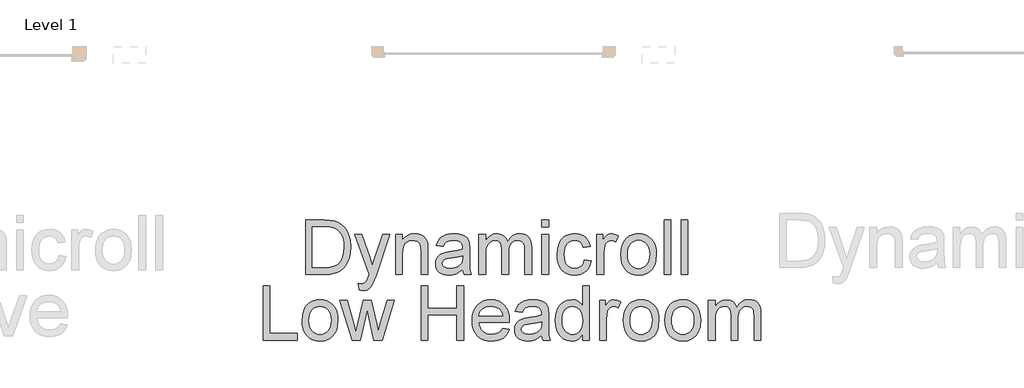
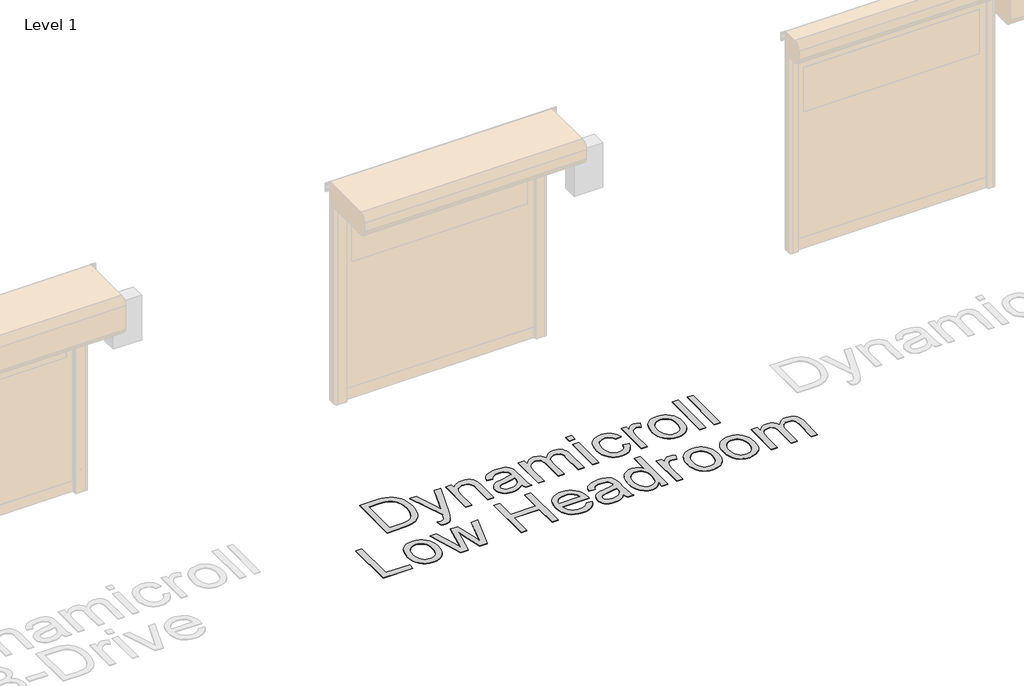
# One storey, part 9 of 17: 1 proxy.
"""IFC4 building model written with IfcOpenShell, lengths in millimetres."""

import ifcopenshell
import ifcopenshell.guid

model = None  # the IFC model being written
_history = None  # IfcOwnerHistory: only IFC2X3 demands one
_inside = {}  # id of a spatial element -> (the spatial element, [elements in it])
_under = {}  # id of a project, library or spatial element -> (it, [spatial elements below it])
_declared = {}  # id of a project -> (the project, [libraries it declares])
_typed = {}  # id of a type object -> (the type object, [elements of that type])
_made_of = {}  # id of a material, layer set ... -> (it, [elements and type objects made of it])


def new_model(schema):
    """Start an empty IFC model of exactly this schema.

    Asked for "IFC4X3", IfcOpenShell would pick the latest addendum, in which some entities
    have other attributes; the version numbers below select the first issue.
    IFC2X3 requires an IfcOwnerHistory on every rooted entity: one is made here for all.
    """
    global model, _history
    if schema == "IFC4X3":
        model = ifcopenshell.file(schema_version=(4, 3, 0, 0))
    else:
        model = ifcopenshell.file(schema=schema)
    _inside.clear()
    _under.clear()
    _declared.clear()
    _typed.clear()
    _made_of.clear()
    _history = None
    if model.schema == "IFC2X3":
        org = make("IfcOrganization", Name="unknown")
        user = make(
            "IfcPersonAndOrganization",
            ThePerson=make("IfcPerson", FamilyName="unknown"),
            TheOrganization=org,
        )
        app = make(
            "IfcApplication",
            ApplicationDeveloper=org,
            Version="unknown",
            ApplicationFullName="unknown",
            ApplicationIdentifier="unknown",
        )
        _history = make(
            "IfcOwnerHistory",
            OwningUser=user,
            OwningApplication=app,
            ChangeAction="ADDED",
            CreationDate=0,
        )
    return model


def make(cls, **values):
    """One entity of the class cls with the attributes given. An attribute that is None is left unset."""
    return model.create_entity(
        cls, **{name: value for name, value in values.items() if value is not None}
    )


def rooted(cls, **values):
    """An entity with a GlobalId (a new one), such as an element, a storey or a relation."""
    return make(cls, GlobalId=ifcopenshell.guid.new(), OwnerHistory=_history, **values)


def si_unit(unit_type, name, prefix=None):
    """IfcSIUnit, for example si_unit("LENGTHUNIT", "METRE", prefix="MILLI")."""
    return make("IfcSIUnit", UnitType=unit_type, Prefix=prefix, Name=name)


def assignment(units):
    """IfcUnitAssignment: the units of a project."""
    return None if units is None else make("IfcUnitAssignment", Units=units)


def point(xyz):
    """IfcCartesianPoint."""
    return None if xyz is None else make("IfcCartesianPoint", Coordinates=xyz)


def direction(xyz):
    """IfcDirection."""
    return None if xyz is None else make("IfcDirection", DirectionRatios=xyz)


def frame(location, z_axis=None, x_axis=None):
    """IfcAxis2Placement3D, a coordinate frame: its origin and axes. An axis left out is left unset."""
    return make(
        "IfcAxis2Placement3D",
        Location=point(location),
        Axis=direction(z_axis),
        RefDirection=direction(x_axis),
    )


def origin():
    """The frame at (0, 0, 0) with its axes left unset."""
    return frame((0.0, 0.0, 0.0))


def origin_with_axes():
    """The frame at (0, 0, 0) with the z axis (0, 0, 1) and the x axis (1, 0, 0) written out."""
    return frame((0.0, 0.0, 0.0), z_axis=(0.0, 0.0, 1.0), x_axis=(1.0, 0.0, 0.0))


def place(relative_to, where):
    """IfcLocalPlacement: puts the frame where relative to a parent placement (None: the world)."""
    return make(
        "IfcLocalPlacement", PlacementRelTo=relative_to, RelativePlacement=where
    )


def context(
    kind, dimensions, precision=None, world=None, true_north=None, identifier=None
):
    """IfcGeometricRepresentationContext, for example the 3D "Model" context."""
    return make(
        "IfcGeometricRepresentationContext",
        ContextIdentifier=identifier,
        ContextType=kind,
        CoordinateSpaceDimension=dimensions,
        Precision=precision,
        WorldCoordinateSystem=world,
        TrueNorth=true_north,
    )


def project(units=None, contexts=None):
    """IfcProject with its units and contexts."""
    return rooted(
        "IfcProject",
        Name="project",
        RepresentationContexts=contexts,
        UnitsInContext=assignment(units),
    )


def spatial(cls, under=None, at=None, **own):
    """A site, building, storey or space (cls), placed at a placement, below another one or the project."""
    s = rooted(cls, ObjectPlacement=at, **own)
    if under is not None:
        _under.setdefault(under.id(), (under, []))[1].append(s)
    return s


def polyline(points):
    """IfcPolyline through the points."""
    return make("IfcPolyline", Points=[point(p) for p in points])


def outline(outer, holes=None, kind="AREA"):
    """IfcArbitraryClosedProfileDef: a profile drawn as a closed curve; with holes, ...WithVoids."""
    if holes is None:
        return make("IfcArbitraryClosedProfileDef", ProfileType=kind, OuterCurve=outer)
    return make(
        "IfcArbitraryProfileDefWithVoids",
        ProfileType=kind,
        OuterCurve=outer,
        InnerCurves=holes,
    )


def extrude(swept, where, along, depth):
    """IfcExtrudedAreaSolid: the profile swept, set in the frame where, extruded along a direction by depth."""
    return make(
        "IfcExtrudedAreaSolid",
        SweptArea=swept,
        Position=where,
        ExtrudedDirection=direction(along),
        Depth=depth,
    )


def shape(context_of_items, identifier, shape_type, items):
    """IfcShapeRepresentation: the items that make up one representation, for example the "Body"."""
    return make(
        "IfcShapeRepresentation",
        ContextOfItems=context_of_items,
        RepresentationIdentifier=identifier,
        RepresentationType=shape_type,
        Items=items,
    )


def made_of(thing, what):
    """Note that an element or type object is made of a material, layer set ...; save() writes the relation."""
    if what is not None:
        _made_of.setdefault(what.id(), (what, []))[1].append(thing)
    return thing


def element(
    cls,
    number,
    at=None,
    inside=None,
    cuts=None,
    type_object=None,
    material=None,
    context=None,
    identifier="Body",
    shape_type=None,
    held_by="IfcProductDefinitionShape",
    body=None,
    shapes=None,
    **own,
):
    """One element of the class cls, such as IfcWall. Its Tag is "e" and its number.

    at: its placement. inside: the storey or other place that contains it. cuts: it is an
    opening in that element (IfcRelVoidsElement). A single representation is given by context,
    identifier, shape_type and body (its items); several are given by shapes. held_by: the class
    of the entity that holds the representations. save() writes the other relations.
    """
    e = rooted(cls, Tag="e%d" % number, ObjectPlacement=at, **own)
    if body is not None:
        shapes = [shape(context, identifier, shape_type, body)]
    if shapes is not None:
        e.Representation = make(held_by, Representations=shapes)
    if inside is not None:
        _inside.setdefault(inside.id(), (inside, []))[1].append(e)
    if cuts is not None:
        rooted(
            "IfcRelVoidsElement", RelatingBuildingElement=cuts, RelatedOpeningElement=e
        )
    if type_object is not None:
        _typed.setdefault(type_object.id(), (type_object, []))[1].append(e)
    return made_of(e, material)


def aggregate(whole, parts):
    """IfcRelAggregates: a whole, such as a stair, and the parts it consists of."""
    return rooted("IfcRelAggregates", RelatingObject=whole, RelatedObjects=parts)


def save(model, path):
    """Write the relations noted so far, then the file.

    IfcRelAggregates (storeys below a building ...), IfcRelContainedInSpatialStructure (elements
    in a storey), IfcRelDefinesByType, IfcRelAssociatesMaterial and IfcRelDeclares: one each for
    every whole, place, type object, material and project.
    """
    for whole, parts in _under.values():
        aggregate(whole, parts)
    for where, things in _inside.values():
        rooted(
            "IfcRelContainedInSpatialStructure",
            RelatedElements=things,
            RelatingStructure=where,
        )
    for kind, things in _typed.values():
        rooted("IfcRelDefinesByType", RelatedObjects=things, RelatingType=kind)
    for what, things in _made_of.values():
        rooted("IfcRelAssociatesMaterial", RelatedObjects=things, RelatingMaterial=what)
    for by, libraries in _declared.values():
        rooted("IfcRelDeclares", RelatingContext=by, RelatedDefinitions=libraries)
    model.write(path)


model = new_model("IFC4")

# Units and contexts
model_context = context("Model", 3, world=origin())
ifc_project = project(units=[si_unit("LENGTHUNIT", "METRE", prefix="MILLI")], contexts=[model_context])

# Site, building, storey
site = spatial("IfcSite", under=ifc_project)
building = spatial("IfcBuilding", under=site)
storey = spatial("IfcBuildingStorey", under=building, Name="Level 1", Elevation=0.0)

# Proxy
placement = place(None, origin())
element("IfcBuildingElementProxy", 1, Name="500mm", ObjectType="500mm", at=placement, inside=storey, context=model_context, shape_type="SweptSolid", body=[
    extrude(outline(polyline([(10253.8603048, 30354.3905971), (10253.8603048, 30856.6721479), (10427.1327245, 30856.6721479), (10478.9121153, 30854.8633947), (10516.773304, 30849.4371353), (10556.8111278, 30835.4882763), (10590.5949577, 30813.5073271), (10609.2113195, 30795.542423), (10625.3291494, 30775.2475996), (10638.9484474, 30752.6228569), (10650.0692136, 30727.6681949), (10664.8764639, 30671.688818), (10669.812214, 30608.2291738), (10666.4706192, 30554.3191331), (10656.4458348, 30506.8776841), (10641.178732, 30466.4873067), (10622.1101819, 30433.7304807), (10600.1598896, 30407.8714422), (10576.2475599, 30388.174427), (10548.794366, 30373.5664461), (10516.221481, 30362.9745103), (10478.4675912, 30356.5365754), (10435.4713831, 30354.3905971), (10253.8603048, 30354.3905971)]), holes=[polyline([(10316.6454986, 30417.175791), (10427.7458612, 30417.175791), (10473.7004537, 30419.4443966), (10508.5572728, 30426.2502135), (10534.8608354, 30437.1947029), (10555.1556588, 30451.8793258), (10576.9679955, 30479.0566082), (10593.3540727, 30514.235324), (10603.6087833, 30557.5687574), (10607.0270201, 30609.2101924), (10605.3523906, 30645.6611668), (10600.3285022, 30677.6362436), (10591.9553547, 30705.1354227), (10580.2329482, 30728.1587042), (10566.1116445, 30747.2272543), (10550.5418055, 30762.8622391), (10533.5234311, 30775.0636586), (10515.0565214, 30783.8315128), (10478.9427722, 30791.3730937), (10426.0290785, 30793.886954), (10316.6454986, 30793.886954), (10316.6454986, 30417.175791)])]), origin_with_axes(), (0.0, 0.0, 1.0), 5.0),
    extrude(outline(polyline([(10748.2937063, 30213.123911), (10740.4455571, 30273.5791855), (10772.3286633, 30268.0609556), (10789.0979509, 30269.7930666), (10802.1271049, 30274.9893998), (10812.2745166, 30283.2820731), (10820.3985773, 30294.3032046), (10837.5664038, 30340.5337086), (10842.4714971, 30355.7394978), (10709.0529601, 30723.253611), (10775.2717193, 30723.253611), (10846.0276897, 30518.465967), (10870.6757834, 30436.5509094), (10895.323877, 30508.9010351), (10968.0418847, 30723.253611), (11033.7701346, 30723.253611), (10905.3793182, 30345.5614292), (10872.024684, 30263.6463716), (10854.9488281, 30237.4960932), (10835.6043665, 30219.3779049), (10813.1329079, 30208.8012975), (10786.6760611, 30205.2757617), (10768.4965592, 30207.2377991), (10748.2937063, 30213.123911)])), origin_with_axes(), (0.0, 0.0, 1.0), 5.0),
    extrude(outline(polyline([(11085.7641232, 30354.3905971), (11085.7641232, 30723.253611), (11148.549317, 30723.253611), (11148.549317, 30671.7501316), (11170.3616537, 30697.7164691), (11196.5579174, 30716.263853), (11227.1381083, 30727.3922834), (11262.1022262, 30731.1017602), (11293.0502991, 30728.112719), (11321.3925411, 30719.1455953), (11345.0289593, 30705.3193637), (11361.8595606, 30687.7529984), (11373.2792309, 30666.4924848), (11380.682856, 30641.583808), (11383.993794, 30580.8832788), (11383.993794, 30354.3905971), (11321.2086001, 30354.3905971), (11321.2086001, 30572.4219929), (11319.399847, 30604.887579), (11313.9735875, 30627.9721742), (11303.9641316, 30644.5115356), (11288.4057889, 30657.3414202), (11268.4635191, 30665.5727798), (11245.3022818, 30668.3165663), (11226.2375638, 30666.7760605), (11208.5294107, 30662.1545429), (11192.1778224, 30654.4520136), (11177.182799, 30643.6684727), (11164.6556506, 30628.5776467), (11155.7076875, 30607.9532623), (11150.3389097, 30581.7953196), (11148.549317, 30550.1038186), (11148.549317, 30354.3905971), (11085.7641232, 30354.3905971)])), origin_with_axes(), (0.0, 0.0, 1.0), 5.0),
    extrude(outline(polyline([(11705.7679124, 30401.4794925), (11675.7702014, 30375.7584097), (11644.8834422, 30358.9278084), (11612.4025277, 30349.638788), (11577.6223508, 30346.5424479), (11549.6671512, 30348.4048505), (11525.1531812, 30353.9920583), (11504.0804407, 30363.3040713), (11486.4489296, 30376.3408895), (11472.5268954, 30392.2747784), (11462.5825852, 30410.2780036), (11456.6159991, 30430.3505649), (11454.627137, 30452.4924625), (11457.6315067, 30478.5201137), (11466.6446155, 30502.1565319), (11480.5474893, 30522.3900416), (11498.2211535, 30538.2089674), (11518.9911578, 30550.1651322), (11542.1830519, 30558.8103591), (11596.5069598, 30568.2526637), (11660.702368, 30578.1854775), (11705.4000304, 30589.835074), (11705.7679124, 30603.8145899), (11701.445299, 30631.8349352), (11688.4774586, 30650.1677212), (11675.4023194, 30658.107841), (11659.4760947, 30663.7793551), (11619.0703889, 30668.3165663), (11581.6690527, 30665.2968683), (11555.549431, 30656.2377742), (11537.7378111, 30639.483815), (11525.2604801, 30613.3795217), (11462.4752863, 30621.227671), (11473.3737904, 30655.5633238), (11489.6372402, 30682.5413368), (11512.7831491, 30703.1733854), (11544.3290302, 30718.471145), (11582.9106544, 30727.9441064), (11627.1637928, 30731.1017602), (11669.608178, 30728.3119884), (11703.2540521, 30719.942673), (11728.6225814, 30707.3580431), (11746.2349319, 30691.9223277), (11757.9151852, 30672.8384492), (11765.487423, 30649.3093299), (11768.5531063, 30594.3722853), (11768.5531063, 30516.258675), (11771.7414169, 30407.1816634), (11776.4625691, 30380.2189789), (11784.2494047, 30354.3905971), (11721.4642109, 30354.3905971), (11711.4087697, 30376.2182622), (11705.7679124, 30401.4794925)]), holes=[polyline([(11705.7679124, 30527.0498802), (11663.5841103, 30516.5959002), (11604.4777364, 30507.7973891), (11550.4603968, 30497.6193206), (11536.4042389, 30490.6602195), (11525.9962441, 30481.0646308), (11519.5583092, 30469.5683184), (11517.4123309, 30456.9070464), (11522.0874979, 30438.2370352), (11536.112999, 30422.9392756), (11559.1822657, 30412.7305502), (11590.9887299, 30409.3276417), (11624.7112461, 30413.0831038), (11654.5096877, 30424.3494899), (11678.6672721, 30440.9501649), (11695.4672165, 30460.7084937), (11702.9168269, 30481.0646308), (11705.4000304, 30509.2689171), (11705.7679124, 30527.0498802)])]), origin_with_axes(), (0.0, 0.0, 1.0), 5.0),
    extrude(outline(polyline([(11854.8827478, 30354.3905971), (11854.8827478, 30723.253611), (11917.6679416, 30723.253611), (11917.6679416, 30662.5530817), (11936.5525507, 30690.4354713), (11960.8327624, 30712.2784648), (11989.6808422, 30726.3959363), (12022.2690556, 30731.1017602), (12057.1871883, 30726.3039658), (12085.1768768, 30711.9105828), (12106.0848368, 30688.8719728), (12119.7577843, 30658.1384978), (12142.6431101, 30690.0599251), (12168.7474033, 30712.8609446), (12198.070664, 30726.5415563), (12230.6128922, 30731.1017602), (12255.7476631, 30729.2048686), (12277.8090865, 30723.514194), (12296.7971624, 30714.0297363), (12312.7118908, 30700.7514956), (12325.2926886, 30683.5261876), (12334.2789728, 30662.2005282), (12339.6707432, 30636.7745174), (12341.4680001, 30607.2481551), (12341.4680001, 30354.3905971), (12278.6828062, 30354.3905971), (12278.6828062, 30580.2701422), (12277.2266067, 30611.586097), (12272.858008, 30632.6933265), (12264.6726336, 30647.1480232), (12251.7661069, 30658.5063798), (12235.1654319, 30665.8640197), (12215.8976124, 30668.3165663), (12198.105153, 30666.7454037), (12181.8838562, 30662.0319156), (12167.2337222, 30654.1761022), (12154.1547509, 30643.1779633), (12143.3980346, 30628.7156024), (12135.7146659, 30610.4671226), (12131.1046446, 30588.4325239), (12129.5679709, 30562.6118064), (12129.5679709, 30354.3905971), (12066.782777, 30354.3905971), (12066.782777, 30587.2599001), (12063.1499423, 30622.7605126), (12052.2514382, 30648.0830566), (12043.8246412, 30656.9352171), (12033.0755892, 30663.2581889), (12004.6107198, 30668.3165663), (11980.4224786, 30664.9443147), (11958.1349611, 30654.8275599), (11939.7408613, 30638.2115564), (11927.2328735, 30615.341559), (11920.0591746, 30583.611737), (11917.6679416, 30540.4162594), (11917.6679416, 30354.3905971), (11854.8827478, 30354.3905971)])), origin_with_axes(), (0.0, 0.0, 1.0), 5.0),
    extrude(outline(polyline([(12435.6457908, 30793.886954), (12435.6457908, 30856.6721479), (12498.4309847, 30856.6721479), (12498.4309847, 30793.886954), (12435.6457908, 30793.886954)])), origin_with_axes(), (0.0, 0.0, 1.0), 5.0),
    extrude(outline(polyline([(12435.6457908, 30354.3905971), (12435.6457908, 30723.253611), (12498.4309847, 30723.253611), (12498.4309847, 30354.3905971), (12435.6457908, 30354.3905971)])), origin_with_axes(), (0.0, 0.0, 1.0), 5.0),
    extrude(outline(polyline([(12828.0532524, 30487.809134), (12890.8384462, 30479.9609848), (12884.0096367, 30450.3349879), (12873.3333946, 30424.1195636), (12858.80972, 30401.314712), (12840.4386129, 30381.9204331), (12818.9941582, 30366.4425646), (12795.2504411, 30355.3869442), (12769.2074615, 30348.753572), (12740.8652195, 30346.5424479), (12705.6520148, 30349.6272917), (12674.079309, 30358.8818231), (12646.1471021, 30374.3060422), (12621.8553941, 30395.8999489), (12602.1928678, 30423.2573402), (12588.1482063, 30455.972013), (12579.7214093, 30494.0439674), (12576.912477, 30537.4732034), (12581.7102713, 30593.3452814), (12596.1036544, 30641.767749), (12606.9561733, 30662.7178622), (12620.3225524, 30680.8705394), (12636.2027919, 30696.2257806), (12654.5968916, 30708.7835858), (12695.6004057, 30725.5222166), (12740.0068282, 30731.1017602), (12767.862393, 30729.1857081), (12793.0584776, 30723.437552), (12815.5950819, 30713.8572917), (12835.4722059, 30700.4449273), (12852.3526246, 30683.5070271), (12865.8991126, 30663.3501594), (12876.1116701, 30639.9743243), (12882.990297, 30613.3795217), (12820.2051031, 30605.5313725), (12808.8160897, 30632.9232527), (12791.0811118, 30652.5589542), (12767.9811882, 30664.3771633), (12740.4973375, 30668.3165663), (12719.1640139, 30666.3775217), (12699.9230191, 30660.5603876), (12682.7743532, 30650.8651642), (12667.7180161, 30637.2918514), (12655.4591151, 30619.5262167), (12646.7027572, 30597.2540276), (12641.4489424, 30570.475284), (12639.6976708, 30539.189986), (12641.4106214, 30507.4333392), (12646.549473, 30480.3441952), (12655.1142257, 30457.922554), (12667.1048795, 30440.1684157), (12681.8623124, 30426.6755771), (12698.7274026, 30417.0378352), (12717.7001501, 30411.2551901), (12738.7805549, 30409.3276417), (12771.2921262, 30414.1407645), (12797.9482424, 30428.5801328), (12808.7279513, 30439.5016295), (12817.3386893, 30453.0136287), (12828.0532524, 30487.809134)])), origin_with_axes(), (0.0, 0.0, 1.0), 5.0),
    extrude(outline(polyline([(12945.7754908, 30354.3905971), (12945.7754908, 30723.253611), (13000.7125354, 30723.253611), (13000.7125354, 30668.6844483), (13021.0073588, 30700.3222999), (13039.7080269, 30718.9616543), (13058.4700087, 30728.0667337), (13078.9487731, 30731.1017602), (13110.2187427, 30726.2579806), (13141.9792216, 30711.7266418), (13121.0099479, 30655.4406965), (13098.9370281, 30665.0975989), (13076.8641084, 30668.3165663), (13058.1174551, 30665.2202262), (13041.3634959, 30655.9312058), (13027.8285042, 30641.1546124), (13018.7387532, 30621.595553), (13011.1052018, 30586.5241361), (13008.5606847, 30548.2644086), (13008.5606847, 30354.3905971), (12945.7754908, 30354.3905971)])), origin_with_axes(), (0.0, 0.0, 1.0), 5.0),
    extrude(outline(polyline([(13165.5236693, 30538.822104), (13168.9189135, 30586.593114), (13179.1046463, 30627.7575764), (13196.0808675, 30662.3154913), (13219.8475772, 30690.2668587), (13243.7752353, 30708.1321281), (13270.1860969, 30720.8930348), (13299.0801619, 30728.5495788), (13330.4574304, 30731.1017602), (13365.0958195, 30727.9939237), (13396.4156065, 30718.6704144), (13424.4167913, 30703.1312322), (13449.0993739, 30681.3763772), (13469.2447452, 30654.1416132), (13483.6342962, 30622.1627044), (13492.2680268, 30585.4396506), (13495.1459369, 30543.972452), (13490.0569027, 30480.5434646), (13483.6956098, 30454.5081493), (13474.7897999, 30432.2589528), (13463.4506038, 30413.0409506), (13449.7891526, 30396.0992183), (13433.8054464, 30381.4337559), (13415.499485, 30369.0445633), (13374.7718824, 30352.1679767), (13330.4574304, 30346.5424479), (13295.3132036, 30349.638788), (13263.7021767, 30358.9278084), (13235.6243499, 30374.409509), (13211.079723, 30396.0838899), (13191.1489495, 30423.583069), (13176.9126827, 30456.5391644), (13168.3709226, 30494.9521761), (13165.5236693, 30538.822104)]), holes=[polyline([(13228.3088631, 30538.9447314), (13230.1252805, 30508.491), (13235.5745325, 30482.1222915), (13244.6566193, 30459.8386061), (13257.3715407, 30441.6399436), (13272.8379129, 30427.5033116), (13290.174352, 30417.4057172), (13309.3808578, 30411.3471606), (13330.4574304, 30409.3276417), (13351.4267042, 30411.3586569), (13370.5565679, 30417.4517025), (13387.8470217, 30427.6067784), (13403.2980655, 30441.8238846), (13416.0129869, 30460.202656), (13425.0950737, 30482.8427271), (13430.5443258, 30509.744098), (13432.3607431, 30540.9067687), (13430.5328294, 30570.3948099), (13425.0490885, 30596.0737395), (13415.9095201, 30617.9435577), (13403.1141245, 30636.0042644), (13387.6055991, 30650.1408965), (13370.3266417, 30660.2384909), (13351.2772521, 30666.2970475), (13330.4574304, 30668.3165663), (13309.3808578, 30666.3047117), (13290.174352, 30660.2691477), (13272.8379129, 30650.2098744), (13257.3715407, 30636.1268918), (13244.6566193, 30617.9818788), (13235.5745325, 30595.7365144), (13230.1252805, 30569.3907986), (13228.3088631, 30538.9447314)])]), origin_with_axes(), (0.0, 0.0, 1.0), 5.0),
    extrude(outline(polyline([(13565.77928, 30354.3905971), (13565.77928, 30856.6721479), (13628.5644739, 30856.6721479), (13628.5644739, 30354.3905971), (13565.77928, 30354.3905971)])), origin_with_axes(), (0.0, 0.0, 1.0), 5.0),
    extrude(outline(polyline([(13722.7422646, 30354.3905971), (13722.7422646, 30856.6721479), (13785.5274585, 30856.6721479), (13785.5274585, 30354.3905971), (13722.7422646, 30354.3905971)])), origin_with_axes(), (0.0, 0.0, 1.0), 5.0),
    extrude(outline(polyline([(9861.4528433, 29744.5165079), (9861.4528433, 30246.7980586), (9924.2380371, 30246.7980586), (9924.2380371, 29807.3017017), (10175.3788125, 29807.3017017), (10175.3788125, 29744.5165079), (9861.4528433, 29744.5165079)])), origin_with_axes(), (0.0, 0.0, 1.0), 5.0),
    extrude(outline(polyline([(10222.4677079, 29928.9480148), (10225.8629521, 29976.7190247), (10236.0486848, 30017.8834871), (10253.0249061, 30052.4414021), (10276.7916158, 30080.3927695), (10300.7192739, 30098.2580389), (10327.1301355, 30111.0189456), (10356.0242005, 30118.6754896), (10387.401469, 30121.227671), (10422.0398581, 30118.1198345), (10453.3596451, 30108.7963252), (10481.3608299, 30093.257143), (10506.0434125, 30071.5022879), (10526.1887838, 30044.267524), (10540.5783348, 30012.2886151), (10549.2120653, 29975.5655614), (10552.0899755, 29934.0983627), (10547.0009413, 29870.6693754), (10540.6396484, 29844.63406), (10531.7338385, 29822.3848635), (10520.3946424, 29803.1668614), (10506.7331912, 29786.2251291), (10490.7494849, 29771.5596666), (10472.4435236, 29759.170474), (10431.715921, 29742.2938875), (10387.401469, 29736.6683587), (10352.2572422, 29739.7646988), (10320.6462153, 29749.0537192), (10292.5683885, 29764.5354198), (10268.0237616, 29786.2098007), (10248.0929881, 29813.7089798), (10233.8567213, 29846.6650752), (10225.3149612, 29885.0780869), (10222.4677079, 29928.9480148)]), holes=[polyline([(10285.2529017, 29929.0706421), (10287.0693191, 29898.6169107), (10292.5185711, 29872.2482023), (10301.6006579, 29849.9645169), (10314.3155793, 29831.7658544), (10329.7819515, 29817.6292223), (10347.1183906, 29807.531628), (10366.3248964, 29801.4730714), (10387.401469, 29799.4535525), (10408.3707428, 29801.4845677), (10427.5006065, 29807.5776132), (10444.7910603, 29817.7326891), (10460.2421041, 29831.9497954), (10472.9570255, 29850.3285668), (10482.0391123, 29872.9686379), (10487.4883643, 29899.8700088), (10489.3047817, 29931.0326795), (10487.476868, 29960.5207206), (10481.993127, 29986.1996503), (10472.8535587, 30008.0694685), (10460.0581631, 30026.1301752), (10444.5496377, 30040.2668073), (10427.2706803, 30050.3644016), (10408.2212907, 30056.4229582), (10387.401469, 30058.4424771), (10366.3248964, 30056.4306225), (10347.1183906, 30050.3950585), (10329.7819515, 30040.3357852), (10314.3155793, 30026.2528025), (10301.6006579, 30008.1077895), (10292.5185711, 29985.8624251), (10287.0693191, 29959.5167093), (10285.2529017, 29929.0706421)])]), origin_with_axes(), (0.0, 0.0, 1.0), 5.0),
    extrude(outline(polyline([(10683.9143571, 29744.5165079), (10571.7103486, 30113.3795217), (10636.9480891, 30113.3795217), (10700.5916743, 29898.1685545), (10719.5989107, 29821.2812176), (10735.1725818, 29895.3481259), (10785.8176698, 30113.3795217), (10860.6203422, 30113.3795217), (10911.0201755, 29895.9612626), (10924.877064, 29828.8841121), (10944.7426917, 29899.6400825), (11008.5089042, 30113.3795217), (11073.9918994, 30113.3795217), (10960.9294995, 29744.5165079), (10885.0231812, 29744.5165079), (10836.8306398, 29960.8311211), (10822.851124, 30028.2761535), (10760.6790668, 29744.5165079), (10683.9143571, 29744.5165079)])), origin_with_axes(), (0.0, 0.0, 1.0), 5.0),
    extrude(outline(polyline([(11321.2086001, 29744.5165079), (11321.2086001, 30246.7980586), (11383.993794, 30246.7980586), (11383.993794, 30042.7461787), (11650.8308678, 30042.7461787), (11650.8308678, 30246.7980586), (11713.6160616, 30246.7980586), (11713.6160616, 29744.5165079), (11650.8308678, 29744.5165079), (11650.8308678, 29979.9609848), (11383.993794, 29979.9609848), (11383.993794, 29744.5165079), (11321.2086001, 29744.5165079)])), origin_with_axes(), (0.0, 0.0, 1.0), 5.0),
    extrude(outline(polyline([(12073.8951622, 29854.3905971), (12135.4540828, 29846.5424479), (12126.0156103, 29821.88669), (12113.2738641, 29800.1586597), (12097.2288442, 29781.3583569), (12077.8805505, 29765.4857816), (12055.4282525, 29752.8781591), (12030.0712196, 29743.8727144), (12001.8094517, 29738.4694476), (11970.6429489, 29736.6683587), (11931.6857785, 29739.7761951), (11896.9745794, 29749.0997044), (11866.5093517, 29764.6388866), (11840.2900953, 29786.3937417), (11819.2058585, 29813.7587972), (11804.1456893, 29846.1285806), (11795.1095878, 29883.5030921), (11792.0975539, 29925.8823315), (11795.1402446, 29969.69861), (11804.2683166, 30008.3185553), (11819.48177, 30041.7421674), (11840.7806046, 30069.9694463), (11866.9308831, 30092.3949196), (11896.6986679, 30108.4131148), (11930.083959, 30118.0240319), (11967.0867563, 30121.227671), (12002.8977693, 30118.0316961), (12035.2828812, 30108.4437716), (12064.242092, 30092.4638975), (12089.7754017, 30070.0920736), (12110.618216, 30041.9261084), (12125.5059405, 30008.5638099), (12134.4385752, 29970.0051783), (12137.4161201, 29926.2502135), (12137.0482381, 29909.3276417), (11854.8827478, 29909.3276417), (11858.5194146, 29884.273345), (11865.7505951, 29862.3307169), (11876.5762892, 29843.4997572), (11890.996497, 29827.7804661), (11908.2141408, 29815.3874414), (11927.4321429, 29806.5352809), (11948.6505034, 29801.2239846), (11971.8692223, 29799.4535525), (12005.2851701, 29802.7338336), (12033.4281428, 29812.574677), (12056.2981401, 29829.5892193), (12073.8951622, 29854.3905971)]), holes=[polyline([(11854.8827478, 29972.1128356), (12074.6309262, 29972.1128356), (12066.1389835, 30005.2835288), (12049.4923232, 30029.0119175), (12032.370482, 30041.8877873), (12012.8880647, 30051.0848372), (11991.0450713, 30056.6030671), (11966.8415017, 30058.4424771), (11924.5197438, 30052.5716936), (11906.1064835, 30045.2332142), (11889.524969, 30034.9593431), (11875.610599, 30022.2252611), (11865.1987721, 30007.5061492), (11858.2894883, 29990.8020074), (11854.8827478, 29972.1128356)])]), origin_with_axes(), (0.0, 0.0, 1.0), 5.0),
    extrude(outline(polyline([(12435.6457908, 29791.6054033), (12405.6480798, 29765.8843204), (12374.7613206, 29749.0537192), (12342.2804061, 29739.7646988), (12307.5002292, 29736.6683587), (12279.5450297, 29738.5307613), (12255.0310596, 29744.1179691), (12233.9583191, 29753.4299821), (12216.326808, 29766.4668003), (12202.4047738, 29782.4006892), (12192.4604636, 29800.4039143), (12186.4938775, 29820.4764757), (12184.5050155, 29842.6183733), (12187.5093851, 29868.6460244), (12196.522494, 29892.2824426), (12210.4253677, 29912.5159524), (12228.0990319, 29928.3348782), (12248.8690362, 29940.291043), (12272.0609303, 29948.9362699), (12326.3848383, 29958.3785744), (12390.5802464, 29968.3113883), (12435.2779088, 29979.9609848), (12435.6457908, 29993.9405006), (12431.3231774, 30021.9608459), (12418.3553371, 30040.293632), (12405.2801978, 30048.2337517), (12389.3539731, 30053.9052658), (12348.9482673, 30058.4424771), (12311.5469311, 30055.4227791), (12285.4273095, 30046.3636849), (12267.6156895, 30029.6097257), (12255.1383585, 30003.5054325), (12192.3531647, 30011.3535817), (12203.2516688, 30045.6892346), (12219.5151187, 30072.6672476), (12242.6610275, 30093.2992962), (12274.2069086, 30108.5970558), (12312.7885329, 30118.0700172), (12357.0416712, 30121.227671), (12399.4860564, 30118.4378992), (12433.1319305, 30110.0685838), (12458.5004598, 30097.4839539), (12476.1128103, 30082.0482385), (12487.7930637, 30062.96436), (12495.3653014, 30039.4352407), (12498.4309847, 29984.4981961), (12498.4309847, 29906.3845858), (12501.6192953, 29797.3075742), (12506.3404476, 29770.3448896), (12514.1272831, 29744.5165079), (12451.3420893, 29744.5165079), (12441.2866481, 29766.3441729), (12435.6457908, 29791.6054033)]), holes=[polyline([(12435.6457908, 29917.175791), (12393.4619887, 29906.7218109), (12334.3556148, 29897.9232999), (12280.3382752, 29887.7452314), (12266.2821173, 29880.7861303), (12255.8741225, 29871.1905416), (12249.4361876, 29859.6942292), (12247.2902093, 29847.0329572), (12251.9653763, 29828.362946), (12265.9908774, 29813.0651863), (12289.0601442, 29802.856461), (12320.8666083, 29799.4535525), (12354.5891246, 29803.2090145), (12384.3875662, 29814.4754006), (12408.5451505, 29831.0760757), (12425.345095, 29850.8344045), (12432.7947054, 29871.1905416), (12435.2779088, 29899.3948279), (12435.6457908, 29917.175791)])]), origin_with_axes(), (0.0, 0.0, 1.0), 5.0),
    extrude(outline(polyline([(12812.3569539, 29744.5165079), (12812.3569539, 29803.7455091), (12793.5719795, 29774.3992558), (12770.8169453, 29753.4376463), (12744.0918512, 29740.8606806), (12713.3966972, 29736.6683587), (12672.8070504, 29742.7384116), (12635.6509689, 29760.9485703), (12604.1970583, 29790.0265764), (12580.7139243, 29828.7001711), (12566.090615, 29875.4058561), (12561.2161785, 29928.5801328), (12565.7074046, 29981.0952876), (12579.1810826, 30028.5214082), (12589.2825091, 30049.6516303), (12601.6218843, 30068.1606932), (12616.1992084, 30084.0485968), (12633.0144813, 30097.3153413), (12670.9829688, 30115.2495885), (12713.1514425, 30121.227671), (12743.8695891, 30116.9510428), (12771.0315431, 30104.1211582), (12794.0548246, 30084.4547999), (12812.3569539, 30059.6687504), (12812.3569539, 30246.7980586), (12875.1421477, 30246.7980586), (12875.1421477, 29744.5165079), (12812.3569539, 29744.5165079)]), holes=[polyline([(12624.0013724, 29928.8253875), (12625.7718045, 29898.3793203), (12631.0831008, 29872.0336045), (12639.9352613, 29849.7882401), (12652.328286, 29831.6432271), (12667.1278721, 29817.5602445), (12683.1997168, 29807.5009712), (12700.54382, 29801.4654072), (12719.1601818, 29799.4535525), (12737.864682, 29801.3734367), (12755.1053184, 29807.1330892), (12770.882091, 29816.73251), (12785.1949999, 29830.1716991), (12797.0783548, 29847.5579555), (12805.5664654, 29868.998578), (12810.6593318, 29894.4935667), (12812.3569539, 29924.0429215), (12810.6286749, 29956.4395297), (12805.4438381, 29984.2222846), (12796.8024433, 30007.3911861), (12784.7044906, 30025.9462342), (12770.0773492, 30040.1633405), (12753.8483883, 30050.3184164), (12736.0176078, 30056.4114619), (12716.5850078, 30058.4424771), (12697.600764, 30056.4919361), (12680.2566608, 30050.6403131), (12664.5526981, 30040.8876082), (12650.488876, 30027.2338212), (12638.9005932, 30009.3800481), (12630.6232483, 29987.0273848), (12625.6568413, 29960.1758313), (12624.0013724, 29928.8253875)])]), origin_with_axes(), (0.0, 0.0, 1.0), 5.0),
    extrude(outline(polyline([(12969.3199385, 29744.5165079), (12969.3199385, 30113.3795217), (13024.2569831, 30113.3795217), (13024.2569831, 30058.8103591), (13044.5518065, 30090.4482107), (13063.2524746, 30109.0875651), (13082.0144564, 30118.1926445), (13102.4932208, 30121.227671), (13133.7631904, 30116.3838914), (13165.5236693, 30101.8525525), (13144.5543955, 30045.5666073), (13122.4814758, 30055.2235097), (13100.4085561, 30058.4424771), (13081.6619028, 30055.346137), (13064.9079436, 30046.0571166), (13051.3729519, 30031.2805231), (13042.2832009, 30011.7214637), (13034.6496495, 29976.6500469), (13032.1051324, 29938.3903194), (13032.1051324, 29744.5165079), (12969.3199385, 29744.5165079)])), origin_with_axes(), (0.0, 0.0, 1.0), 5.0),
    extrude(outline(polyline([(13189.068117, 29928.9480148), (13192.4633612, 29976.7190247), (13202.649094, 30017.8834871), (13219.6253152, 30052.4414021), (13243.3920249, 30080.3927695), (13267.319683, 30098.2580389), (13293.7305446, 30111.0189456), (13322.6246096, 30118.6754896), (13354.0018781, 30121.227671), (13388.6402672, 30118.1198345), (13419.9600542, 30108.7963252), (13447.961239, 30093.257143), (13472.6438216, 30071.5022879), (13492.7891929, 30044.267524), (13507.1787439, 30012.2886151), (13515.8124744, 29975.5655614), (13518.6903846, 29934.0983627), (13513.6013504, 29870.6693754), (13507.2400575, 29844.63406), (13498.3342476, 29822.3848635), (13486.9950515, 29803.1668614), (13473.3336003, 29786.2251291), (13457.349894, 29771.5596666), (13439.0439327, 29759.170474), (13398.3163301, 29742.2938875), (13354.0018781, 29736.6683587), (13318.8576513, 29739.7646988), (13287.2466244, 29749.0537192), (13259.1687976, 29764.5354198), (13234.6241707, 29786.2098007), (13214.6933972, 29813.7089798), (13200.4571304, 29846.6650752), (13191.9153703, 29885.0780869), (13189.068117, 29928.9480148)]), holes=[polyline([(13251.8533108, 29929.0706421), (13253.6697282, 29898.6169107), (13259.1189802, 29872.2482023), (13268.201067, 29849.9645169), (13280.9159884, 29831.7658544), (13296.3823606, 29817.6292223), (13313.7187997, 29807.531628), (13332.9253055, 29801.4730714), (13354.0018781, 29799.4535525), (13374.9711519, 29801.4845677), (13394.1010156, 29807.5776132), (13411.3914694, 29817.7326891), (13426.8425132, 29831.9497954), (13439.5574346, 29850.3285668), (13448.6395214, 29872.9686379), (13454.0887734, 29899.8700088), (13455.9051908, 29931.0326795), (13454.0772771, 29960.5207206), (13448.5935361, 29986.1996503), (13439.4539678, 30008.0694685), (13426.6585722, 30026.1301752), (13411.1500468, 30040.2668073), (13393.8710894, 30050.3644016), (13374.8216998, 30056.4229582), (13354.0018781, 30058.4424771), (13332.9253055, 30056.4306225), (13313.7187997, 30050.3950585), (13296.3823606, 30040.3357852), (13280.9159884, 30026.2528025), (13268.201067, 30008.1077895), (13259.1189802, 29985.8624251), (13253.6697282, 29959.5167093), (13251.8533108, 29929.0706421)])]), origin_with_axes(), (0.0, 0.0, 1.0), 5.0),
    extrude(outline(polyline([(13573.6274293, 29928.9480148), (13577.0226735, 29976.7190247), (13587.2084062, 30017.8834871), (13604.1846275, 30052.4414021), (13627.9513372, 30080.3927695), (13651.8789953, 30098.2580389), (13678.2898569, 30111.0189456), (13707.1839219, 30118.6754896), (13738.5611904, 30121.227671), (13773.1995795, 30118.1198345), (13804.5193665, 30108.7963252), (13832.5205513, 30093.257143), (13857.2031339, 30071.5022879), (13877.3485052, 30044.267524), (13891.7380562, 30012.2886151), (13900.3717867, 29975.5655614), (13903.2496969, 29934.0983627), (13898.1606627, 29870.6693754), (13891.7993698, 29844.63406), (13882.8935599, 29822.3848635), (13871.5543638, 29803.1668614), (13857.8929126, 29786.2251291), (13841.9092063, 29771.5596666), (13823.603245, 29759.170474), (13782.8756424, 29742.2938875), (13738.5611904, 29736.6683587), (13703.4169636, 29739.7646988), (13671.8059367, 29749.0537192), (13643.7281099, 29764.5354198), (13619.183483, 29786.2098007), (13599.2527095, 29813.7089798), (13585.0164427, 29846.6650752), (13576.4746826, 29885.0780869), (13573.6274293, 29928.9480148)]), holes=[polyline([(13636.4126231, 29929.0706421), (13638.2290404, 29898.6169107), (13643.6782925, 29872.2482023), (13652.7603793, 29849.9645169), (13665.4753007, 29831.7658544), (13680.9416729, 29817.6292223), (13698.278112, 29807.531628), (13717.4846178, 29801.4730714), (13738.5611904, 29799.4535525), (13759.5304641, 29801.4845677), (13778.6603279, 29807.5776132), (13795.9507817, 29817.7326891), (13811.4018255, 29831.9497954), (13824.1167469, 29850.3285668), (13833.1988337, 29872.9686379), (13838.6480857, 29899.8700088), (13840.4645031, 29931.0326795), (13838.6365894, 29960.5207206), (13833.1528484, 29986.1996503), (13824.0132801, 30008.0694685), (13811.2178845, 30026.1301752), (13795.7093591, 30040.2668073), (13778.4304017, 30050.3644016), (13759.3810121, 30056.4229582), (13738.5611904, 30058.4424771), (13717.4846178, 30056.4306225), (13698.278112, 30050.3950585), (13680.9416729, 30040.3357852), (13665.4753007, 30026.2528025), (13652.7603793, 30008.1077895), (13643.6782925, 29985.8624251), (13638.2290404, 29959.5167093), (13636.4126231, 29929.0706421)])]), origin_with_axes(), (0.0, 0.0, 1.0), 5.0),
    extrude(outline(polyline([(13973.88304, 29744.5165079), (13973.88304, 30113.3795217), (14036.6682338, 30113.3795217), (14036.6682338, 30052.6789925), (14055.5528429, 30080.5613821), (14079.8330546, 30102.4043755), (14108.6811344, 30116.5218471), (14141.2693478, 30121.227671), (14176.1874805, 30116.4298766), (14204.177169, 30102.0364935), (14225.085129, 30078.9978836), (14238.7580765, 30048.2644086), (14261.6434023, 30080.1858359), (14287.7476956, 30102.9868554), (14317.0709563, 30116.6674671), (14349.6131844, 30121.227671), (14374.7479553, 30119.3307794), (14396.8093787, 30113.6401048), (14415.7974546, 30104.1556471), (14431.712183, 30090.8774064), (14444.2929808, 30073.6520984), (14453.279265, 30052.3264389), (14458.6710355, 30026.9004281), (14460.4682923, 29997.3740659), (14460.4682923, 29744.5165079), (14397.6830984, 29744.5165079), (14397.6830984, 29970.3960529), (14396.2268989, 30001.7120078), (14391.8583002, 30022.8192372), (14383.6729258, 30037.273934), (14370.7663991, 30048.6322906), (14354.1657241, 30055.9899305), (14334.8979046, 30058.4424771), (14317.1054452, 30056.8713144), (14300.8841485, 30052.1578264), (14286.2340144, 30044.3020129), (14273.1550431, 30033.3038741), (14262.3983268, 30018.8415132), (14254.7149581, 30000.5930334), (14250.1049368, 29978.5584347), (14248.5682631, 29952.7377172), (14248.5682631, 29744.5165079), (14185.7830692, 29744.5165079), (14185.7830692, 29977.3858108), (14182.1502345, 30012.8864234), (14171.2517304, 30038.2089674), (14162.8249335, 30047.0611279), (14152.0758814, 30053.3840997), (14123.611012, 30058.4424771), (14099.4227709, 30055.0702255), (14077.1352533, 30044.9534706), (14058.7411536, 30028.3374672), (14046.2331657, 30005.4674698), (14039.0594668, 29973.7376477), (14036.6682338, 29930.5421701), (14036.6682338, 29744.5165079), (13973.88304, 29744.5165079)])), origin_with_axes(), (0.0, 0.0, 1.0), 5.0),
])

save(model, "model.ifc")
